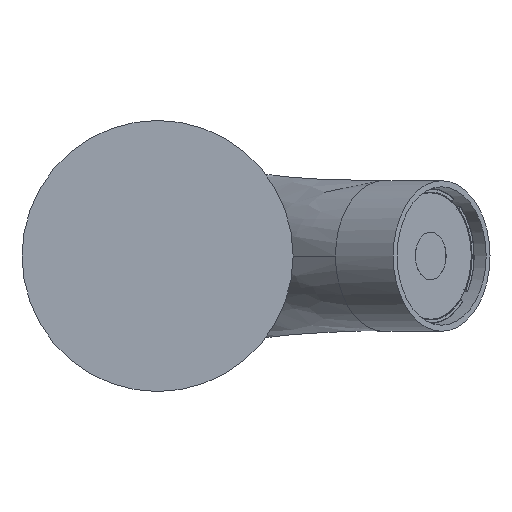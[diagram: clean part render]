
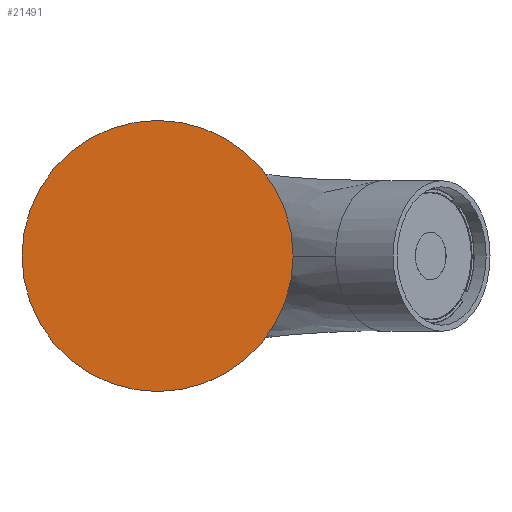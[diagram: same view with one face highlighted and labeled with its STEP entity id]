
A CAD part, front view. The second image highlights one B-rep face of the part: STEP entity #21491.
In plain terms, the highlighted planar face has unit normal (0, -1, 0).
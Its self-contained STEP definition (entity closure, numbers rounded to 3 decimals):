
#3889 = CIRCLE ( 'NONE', #5582, 45. ) ;
#5222 = FACE_OUTER_BOUND ( 'NONE', #22689, .T. ) ;
#5582 = AXIS2_PLACEMENT_3D ( 'NONE', #10797, #12583, #17382 ) ;
#7834 = AXIS2_PLACEMENT_3D ( 'NONE', #16579, #20712, #18908 ) ;
#9450 = VERTEX_POINT ( 'NONE', #16898 ) ;
#10797 = CARTESIAN_POINT ( 'NONE',  ( 0., -6., 0. ) ) ;
#11581 = VERTEX_POINT ( 'NONE', #13884 ) ;
#12583 = DIRECTION ( 'NONE',  ( 0., 1., 0. ) ) ;
#12806 = ORIENTED_EDGE ( 'NONE', *, *, #25233, .F. ) ;
#13884 = CARTESIAN_POINT ( 'NONE',  ( 0., -6., -45. ) ) ;
#14710 = CARTESIAN_POINT ( 'NONE',  ( 0., -6., 0. ) ) ;
#15117 = DIRECTION ( 'NONE',  ( 1., 0., 0. ) ) ;
#16579 = CARTESIAN_POINT ( 'NONE',  ( 0., -6., 0. ) ) ;
#16898 = CARTESIAN_POINT ( 'NONE',  ( 0., -6., 45. ) ) ;
#17382 = DIRECTION ( 'NONE',  ( 0., 0., 1. ) ) ;
#17696 = PLANE ( 'NONE',  #23407 ) ;
#18063 = ORIENTED_EDGE ( 'NONE', *, *, #18099, .F. ) ;
#18099 = EDGE_CURVE ( 'NONE', #9450, #11581, #25361, .T. ) ;
#18908 = DIRECTION ( 'NONE',  ( 0., 0., 1. ) ) ;
#19102 = DIRECTION ( 'NONE',  ( 0., 1., 0. ) ) ;
#20712 = DIRECTION ( 'NONE',  ( 0., 1., 0. ) ) ;
#21491 = ADVANCED_FACE ( 'NONE', ( #5222 ), #17696, .F. ) ;
#22689 = EDGE_LOOP ( 'NONE', ( #12806, #18063 ) ) ;
#23407 = AXIS2_PLACEMENT_3D ( 'NONE', #14710, #19102, #15117 ) ;
#25233 = EDGE_CURVE ( 'NONE', #11581, #9450, #3889, .T. ) ;
#25361 = CIRCLE ( 'NONE', #7834, 45. ) ;
